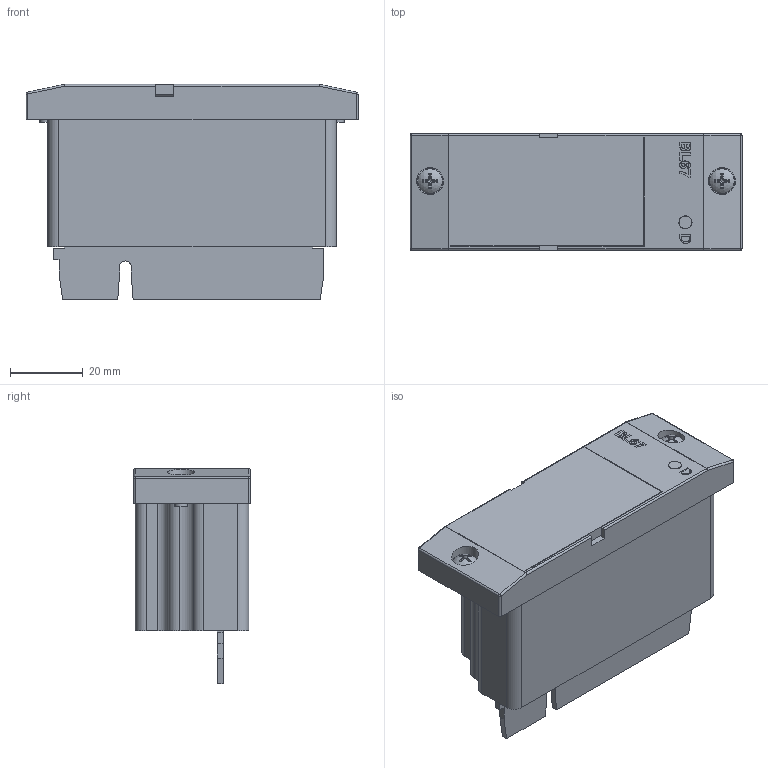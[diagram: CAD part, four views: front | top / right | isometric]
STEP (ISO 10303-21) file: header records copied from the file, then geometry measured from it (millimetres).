
FILE_DESCRIPTION((''),'2;1');
FILE_NAME('C:\TurckZip\BL67-8DI-P.stp','2007-06-06T11:39:14',('IKOROL'),(''),'Autodesk Inventor 11','Autodesk Inventor 11','');
FILE_SCHEMA(('AUTOMOTIVE_DESIGN { 1 0 10303 214 1 1 1 1 }'));
Length unit declared in the file: millimetre
Products named in the file (1): Part5
Bounding box: 91 x 32 x 59.01 mm (x, y, z)
Volume: 42758.1 mm3; surface area: 30688.9 mm2
Topology: 1 solids, 1 shells, 263 faces, 712 edges, 463 vertices
Faces by surface type: plane 139, cylinder 55, bspline 26, cone 23, torus 10, sphere 10
Full cylindrical faces by diameter (mm): 3 x1, 3.5 x1, 3.505 x2, 3.6 x3, 6.858 x2, 7.4 x2
Entity records: 8696 total; most frequent: CARTESIAN_POINT 2421, ORIENTED_EDGE 1384, DIRECTION 1167, EDGE_CURVE 692, VERTEX_POINT 460, AXIS2_PLACEMENT_3D 391, VECTOR 385, LINE 385
